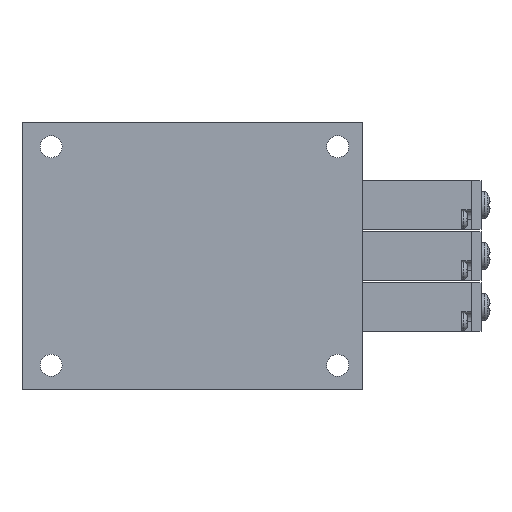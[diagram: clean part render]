
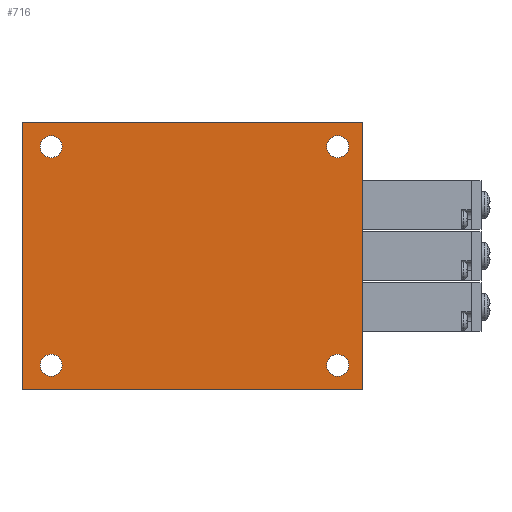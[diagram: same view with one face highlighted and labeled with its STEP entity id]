
A CAD part, front view. The second image highlights one B-rep face of the part: STEP entity #716.
In plain terms, the highlighted planar face has unit normal (0, -1, 0).
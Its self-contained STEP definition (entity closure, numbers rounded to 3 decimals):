
#716=ADVANCED_FACE('',(#1368,#1369,#1370,#1371,#1372),#1373,.F.);
#1368=FACE_OUTER_BOUND('',#2065,.T.);
#1369=FACE_BOUND('',#2066,.T.);
#1370=FACE_BOUND('',#2067,.T.);
#1371=FACE_BOUND('',#2068,.T.);
#1372=FACE_BOUND('',#2069,.T.);
#1373=PLANE('',#2070);
#2065=EDGE_LOOP('',(#4384,#4385,#4386,#4387));
#2066=EDGE_LOOP('',(#4388));
#2067=EDGE_LOOP('',(#4389));
#2068=EDGE_LOOP('',(#4390));
#2069=EDGE_LOOP('',(#4391));
#2070=AXIS2_PLACEMENT_3D('',#4392,#4393,#4394);
#4384=ORIENTED_EDGE('',*,*,#5211,.T.);
#4385=ORIENTED_EDGE('',*,*,#5212,.F.);
#4386=ORIENTED_EDGE('',*,*,#5213,.F.);
#4387=ORIENTED_EDGE('',*,*,#5214,.T.);
#4388=ORIENTED_EDGE('',*,*,#5215,.F.);
#4389=ORIENTED_EDGE('',*,*,#5216,.F.);
#4390=ORIENTED_EDGE('',*,*,#5217,.F.);
#4391=ORIENTED_EDGE('',*,*,#5218,.F.);
#4392=CARTESIAN_POINT('',(0.0,0.0,27.5));
#4393=DIRECTION('',(-0.0,1.0,0.0));
#4394=DIRECTION('',(1.0,0.0,0.0));
#5211=EDGE_CURVE('',#6432,#6433,#6434,.T.);
#5212=EDGE_CURVE('',#6435,#6433,#6436,.T.);
#5213=EDGE_CURVE('',#6437,#6435,#6438,.T.);
#5214=EDGE_CURVE('',#6437,#6432,#6439,.T.);
#5215=EDGE_CURVE('',#6440,#6440,#6441,.T.);
#5216=EDGE_CURVE('',#6442,#6442,#6443,.T.);
#5217=EDGE_CURVE('',#6444,#6444,#6445,.T.);
#5218=EDGE_CURVE('',#6446,#6446,#6447,.T.);
#6432=VERTEX_POINT('',#8516);
#6433=VERTEX_POINT('',#8517);
#6434=LINE('',#8518,#8519);
#6435=VERTEX_POINT('',#8520);
#6436=LINE('',#8521,#8522);
#6437=VERTEX_POINT('',#8523);
#6438=LINE('',#8524,#8525);
#6439=LINE('',#8526,#8527);
#6440=VERTEX_POINT('',#8528);
#6441=CIRCLE('',#8529,2.25);
#6442=VERTEX_POINT('',#8530);
#6443=CIRCLE('',#8531,2.25);
#6444=VERTEX_POINT('',#8532);
#6445=CIRCLE('',#8533,2.25);
#6446=VERTEX_POINT('',#8534);
#6447=CIRCLE('',#8535,2.25);
#8516=CARTESIAN_POINT('',(0.0,0.0,-27.5));
#8517=CARTESIAN_POINT('',(70.0,0.0,-27.5));
#8518=CARTESIAN_POINT('',(0.0,0.0,-27.5));
#8519=VECTOR('',#9559,1.0);
#8520=CARTESIAN_POINT('',(70.0,0.0,27.5));
#8521=CARTESIAN_POINT('',(70.0,0.0,27.5));
#8522=VECTOR('',#9560,1.0);
#8523=CARTESIAN_POINT('',(0.0,0.0,27.5));
#8524=CARTESIAN_POINT('',(0.0,0.0,27.5));
#8525=VECTOR('',#9561,1.0);
#8526=CARTESIAN_POINT('',(0.0,0.0,27.5));
#8527=VECTOR('',#9562,1.0);
#8528=CARTESIAN_POINT('',(6.0,0.0,24.75));
#8529=AXIS2_PLACEMENT_3D('',#9563,#9564,#9565);
#8530=CARTESIAN_POINT('',(65.0,0.0,-20.25));
#8531=AXIS2_PLACEMENT_3D('',#9566,#9567,#9568);
#8532=CARTESIAN_POINT('',(6.0,0.0,-20.25));
#8533=AXIS2_PLACEMENT_3D('',#9569,#9570,#9571);
#8534=CARTESIAN_POINT('',(65.0,0.0,24.75));
#8535=AXIS2_PLACEMENT_3D('',#9572,#9573,#9574);
#9559=DIRECTION('',(1.0,0.0,0.0));
#9560=DIRECTION('',(0.0,0.0,-1.0));
#9561=DIRECTION('',(1.0,0.0,0.0));
#9562=DIRECTION('',(0.0,0.0,-1.0));
#9563=CARTESIAN_POINT('',(6.0,0.0,22.5));
#9564=DIRECTION('',(0.0,-1.0,0.0));
#9565=DIRECTION('',(0.0,0.0,1.0));
#9566=CARTESIAN_POINT('',(65.0,0.0,-22.5));
#9567=DIRECTION('',(0.0,-1.0,0.0));
#9568=DIRECTION('',(0.0,0.0,1.0));
#9569=CARTESIAN_POINT('',(6.0,0.0,-22.5));
#9570=DIRECTION('',(0.0,-1.0,0.0));
#9571=DIRECTION('',(0.0,0.0,1.0));
#9572=CARTESIAN_POINT('',(65.0,0.0,22.5));
#9573=DIRECTION('',(0.0,-1.0,0.0));
#9574=DIRECTION('',(0.0,0.0,1.0));
